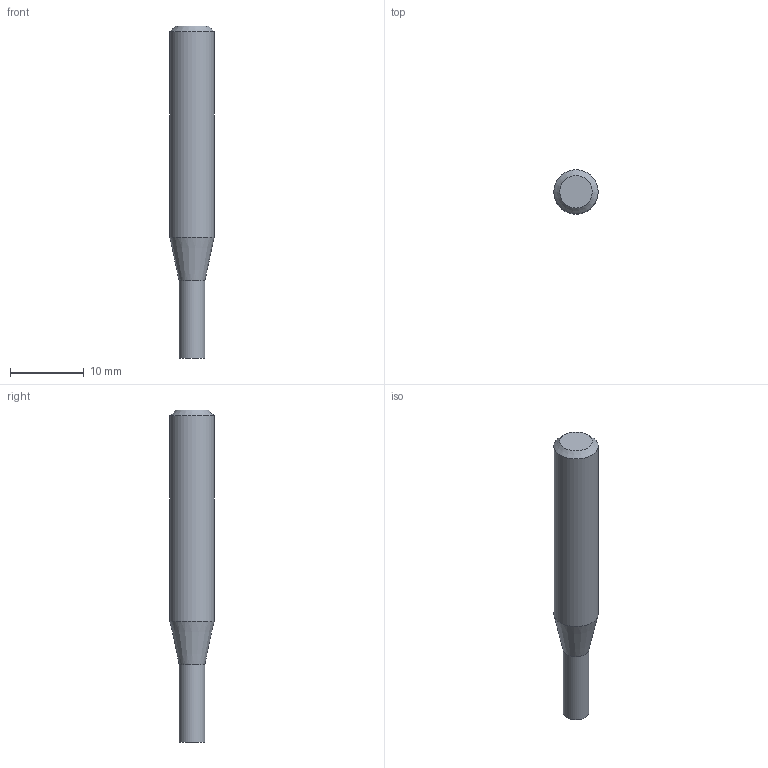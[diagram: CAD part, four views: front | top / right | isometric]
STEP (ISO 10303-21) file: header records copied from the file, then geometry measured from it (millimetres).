
FILE_DESCRIPTION((''),'2;1');
FILE_NAME('C:\Users\nsx150\AppData\Local\Temp\Mastercam 2021\E36A1X9CCL\TEMP.step','2023-04-21T15:18:24',(''),(''),'STEP Write','Mastercam 2021 ... CNC Software, Inc.','');
FILE_SCHEMA(('AUTOMOTIVE_DESIGN'));
Length unit declared in the file: millimetre
Products named in the file (1): None
Bounding box: 6 x 6 x 45 mm (x, y, z)
Volume: 1011.3 mm3; surface area: 792.1 mm2
Topology: 2 solids, 2 shells, 8 faces, 10 edges, 6 vertices
Faces by surface type: plane 4, cylinder 2, cone 2
Full cylindrical faces by diameter (mm): 3.5 x1, 6 x1
Entity records: 190 total; most frequent: DIRECTION 32, CARTESIAN_POINT 22, AXIS2_PLACEMENT_3D 16, ORIENTED_EDGE 12, EDGE_LOOP 12, STYLED_ITEM 11, ADVANCED_FACE 8, VERTEX_POINT 6
